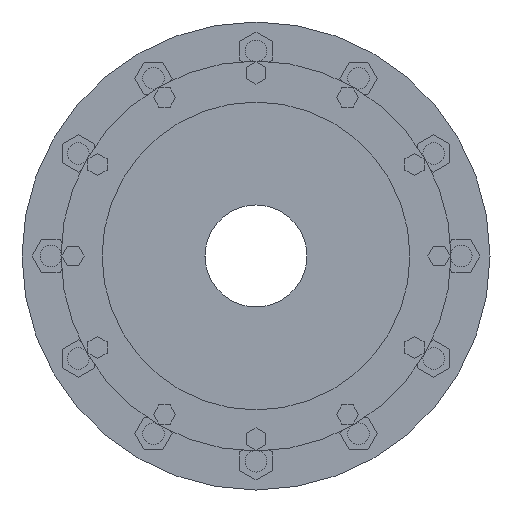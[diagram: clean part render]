
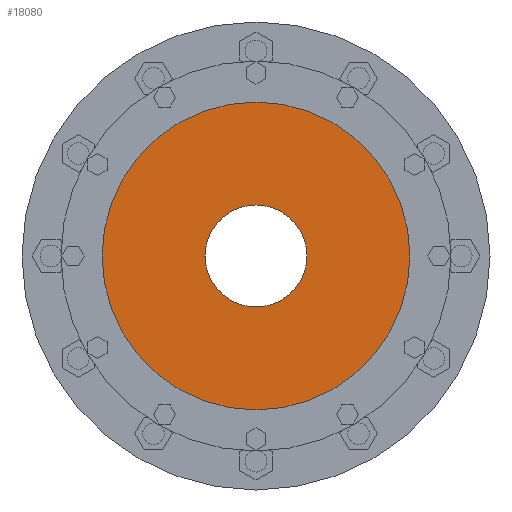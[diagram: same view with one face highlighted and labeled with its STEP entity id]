
A CAD part, left-side view. The second image highlights one B-rep face of the part: STEP entity #18080.
In plain terms, the highlighted planar face has unit normal (-1, 0, 0).
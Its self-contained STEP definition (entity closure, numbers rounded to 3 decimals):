
#17778=CARTESIAN_POINT('',(-365.5,0.,0.));
#17779=DIRECTION('',(1.,0.,0.));
#17780=DIRECTION('',(0.,1.,0.));
#17781=AXIS2_PLACEMENT_3D('',#17778,#17779,#17780);
#17857=CARTESIAN_POINT('',(-365.5,0.,0.));
#17858=DIRECTION('',(-1.,0.,0.));
#17859=DIRECTION('',(0.,1.,0.));
#17860=AXIS2_PLACEMENT_3D('',#17857,#17858,#17859);
#17862=CARTESIAN_POINT('',(-365.5,0.,0.));
#17863=DIRECTION('',(1.,0.,0.));
#17864=DIRECTION('',(0.,1.,0.));
#17865=AXIS2_PLACEMENT_3D('',#17862,#17863,#17864);
#17876=CARTESIAN_POINT('',(-365.5,0.,0.));
#17877=DIRECTION('',(-1.,0.,0.));
#17878=DIRECTION('',(0.,1.,0.));
#17879=AXIS2_PLACEMENT_3D('',#17876,#17877,#17878);
#17885=CARTESIAN_POINT('',(-365.5,42.5,0.));
#17886=CARTESIAN_POINT('',(-365.5,-42.5,0.));
#17887=VERTEX_POINT('',#17885);
#17888=VERTEX_POINT('',#17886);
#17889=CARTESIAN_POINT('',(-365.5,128.25,0.));
#17890=CARTESIAN_POINT('',(-365.5,-128.25,0.));
#17891=VERTEX_POINT('',#17889);
#17892=VERTEX_POINT('',#17890);
#18066=CARTESIAN_POINT('',(-365.5,0.,0.));
#18067=DIRECTION('',(1.,0.,0.));
#18068=DIRECTION('',(0.,-1.,0.));
#18069=AXIS2_PLACEMENT_3D('',#18066,#18067,#18068);
#18070=PLANE('',#18069);
#18071=ORIENTED_EDGE('',*,*,#18048,.F.);
#18072=ORIENTED_EDGE('',*,*,#18061,.T.);
#18073=EDGE_LOOP('',(#18071,#18072));
#18074=FACE_OUTER_BOUND('',#18073,.F.);
#18075=ORIENTED_EDGE('',*,*,#17926,.F.);
#18077=ORIENTED_EDGE('',*,*,#18076,.T.);
#18078=EDGE_LOOP('',(#18075,#18077));
#18079=FACE_BOUND('',#18078,.F.);
#18080=ADVANCED_FACE('',(#18074,#18079),#18070,.F.);
#17782=CIRCLE('',#17781,42.5);
#17861=CIRCLE('',#17860,128.25);
#17866=CIRCLE('',#17865,128.25);
#17880=CIRCLE('',#17879,42.5);
#17926=EDGE_CURVE('',#17887,#17888,#17782,.T.);
#18048=EDGE_CURVE('',#17891,#17892,#17861,.T.);
#18061=EDGE_CURVE('',#17891,#17892,#17866,.T.);
#18076=EDGE_CURVE('',#17887,#17888,#17880,.T.);
